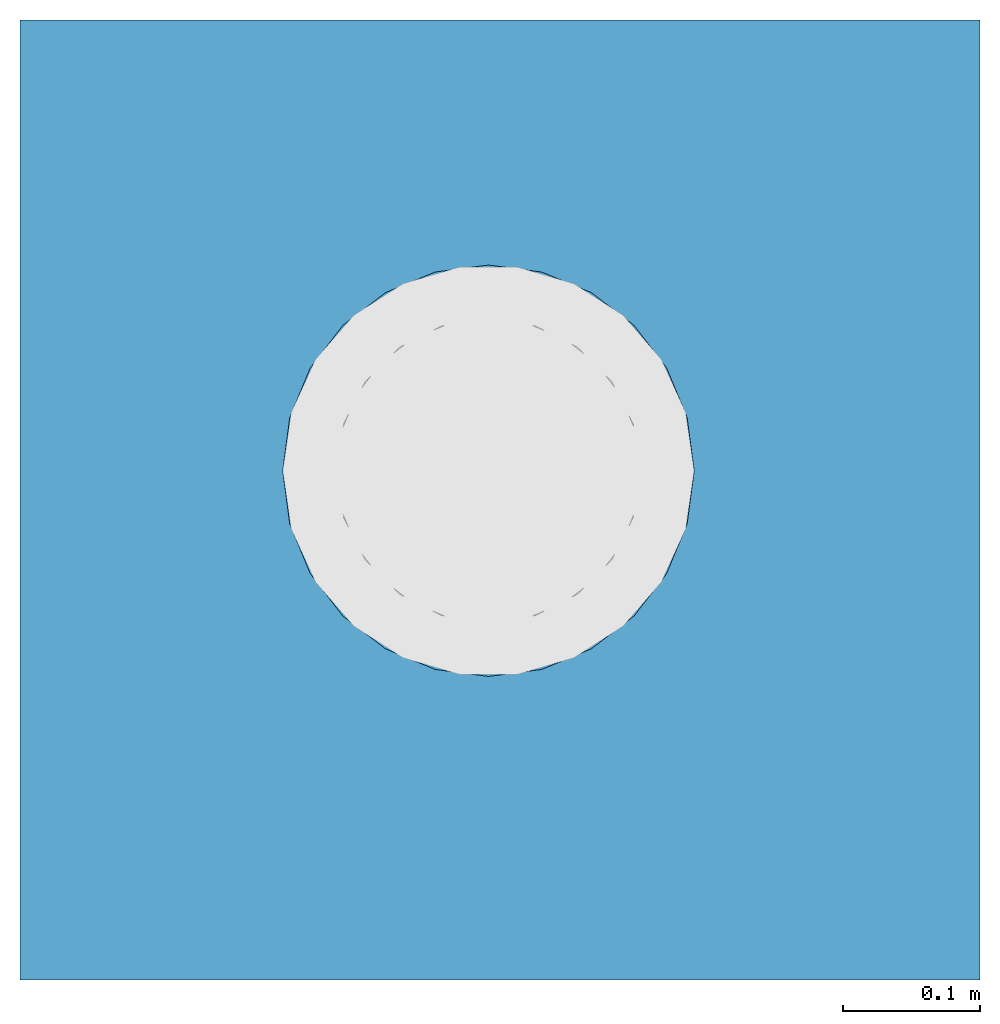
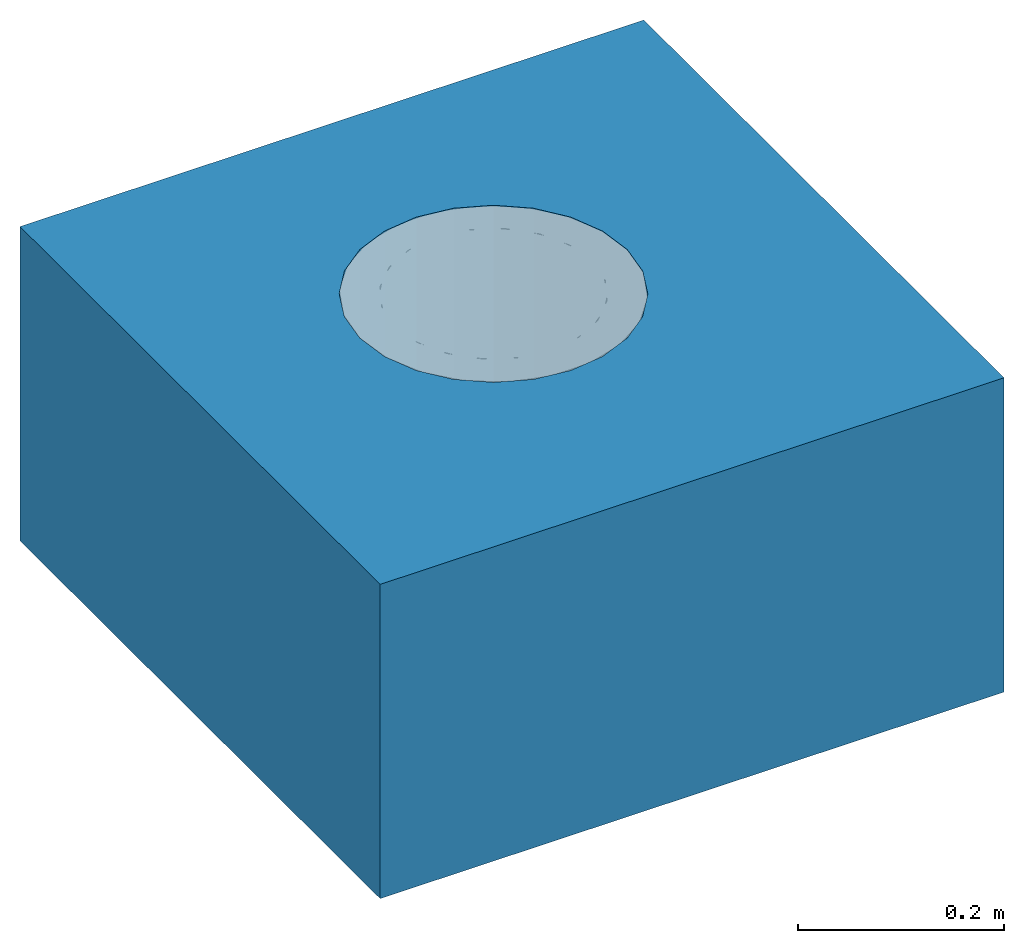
# One storey, incomplete: 1 slab, 1 opening.
"""IFC2X3 building model written with IfcOpenShell, lengths in millimetres."""

from ifc_helpers import new_model, entity, si_unit, converted_unit, derived_unit, direction, frame, frame_2d, origin, place, context, subcontext, project, spatial, rectangle, extrude, faceted_brep, material, layer, layer_set, layer_usage, element, save


model = new_model("IFC2X3")

# Units and contexts
model_context = context("Model", 3, precision=1e-05, world=origin(), true_north=direction((2.0, 6.12303176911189e-17, 1.0)))
context_of_model = context(None, 3, precision=1e-05, world=origin(), true_north=direction((2.0, 6.12303176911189e-17, 1.0)))
body_context = subcontext(model_context, "Body", "Model", "MODEL_VIEW")
ifc_project = project(units=[si_unit("LENGTHUNIT", "METRE", prefix="MILLI"), converted_unit("AREAUNIT", "SQUARE FOOT", entity("IfcRatioMeasure", 0.09290304), si_unit("AREAUNIT", "SQUARE_METRE"), dimensions=[2, 0, 0, 0, 0, 0, 0]), converted_unit("VOLUMEUNIT", "CUBIC FOOT", entity("IfcRatioMeasure", 0.028316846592), si_unit("VOLUMEUNIT", "CUBIC_METRE"), dimensions=[3, 0, 0, 0, 0, 0, 0]), converted_unit("PLANEANGLEUNIT", "DEGREE", entity("IfcRatioMeasure", 0.0174532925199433), si_unit("PLANEANGLEUNIT", "RADIAN"), dimensions=[0, 0, 0, 0, 0, 0, 0]), si_unit("MASSUNIT", "GRAM", prefix="KILO"), si_unit("TIMEUNIT", "SECOND"), si_unit("THERMODYNAMICTEMPERATUREUNIT", "KELVIN"), derived_unit("THERMALTRANSMITTANCEUNIT", [(si_unit("MASSUNIT", "GRAM", prefix="KILO"), 1), (si_unit("THERMODYNAMICTEMPERATUREUNIT", "KELVIN"), -1), (si_unit("TIMEUNIT", "SECOND"), -3)]), derived_unit("VOLUMETRICFLOWRATEUNIT", [(si_unit("LENGTHUNIT", "METRE"), 3), (si_unit("TIMEUNIT", "SECOND"), -1)]), si_unit("POWERUNIT", "WATT")], contexts=[model_context, context_of_model])

# Site, building, storey
site_placement = place(None, origin())
site = spatial("IfcSite", under=ifc_project, at=site_placement, Name="Default", CompositionType="ELEMENT")
building_placement = place(site_placement, origin())
building = spatial("IfcBuilding", under=site, at=building_placement, CompositionType="ELEMENT")
storey_placement = place(building_placement, origin())
storey = spatial("IfcBuildingStorey", under=building, at=storey_placement, Name="Level 1", CompositionType="ELEMENT", Elevation=0.0)

# Slab, opening
ifc_material_1 = material(Name="Plywood, Sheathing")
ifc_layer_1 = layer(ifc_material_1, 68.0)
ifc_material_2 = material(Name="Default Floor")
ifc_layer_2 = layer(ifc_material_2, 304.8)
ifc_layer_set = layer_set([ifc_layer_1, ifc_layer_2], Name="Floor:Generic - 12\"")
ifc_layer_usage = layer_usage(ifc_layer_set, "AXIS3", "POSITIVE", 0.0)
slab_placement = place(storey_placement, frame((-10498.0627721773, 2392.60708548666, -372.8)))
slab = element("IfcSlab", 1, at=slab_placement, inside=storey, material=ifc_layer_usage, Name="Floor:Generic - 12\"", ObjectType="Floor:Generic - 12\"", PredefinedType="FLOOR", context=body_context, shape_type="SweptSolid", body=[
    extrude(rectangle(XDim=700.0, YDim=699.999999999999, at=frame_2d((0.0, 0.0), x_axis=(0.0, -1.0))), frame((350.0, 350.0, 372.8), z_axis=(0.0, 0.0, -1.0), x_axis=(-1.0, 0.0, 0.0)), (0.0, 0.0, 1.0), 372.8),
])
opening_placement = place(slab_placement, frame((189.97754833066, 219.738874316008, 57.799999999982)))
element("IfcOpeningElement", 2, at=opening_placement, cuts=slab, ObjectType="Recess", context=body_context, shape_type="Brep", body=[
    faceted_brep([(226.595272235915, 21.6914616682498, 315.0), (1.5952722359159, 151.595272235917, 315.0), (190.418129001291, 6.70639829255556, 315.0), (301.595272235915, 151.595272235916, 315.0), (257.661289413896, 45.5292550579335, 315.0), (296.484146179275, 112.772415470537, 315.0), (281.499082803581, 76.5952722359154, 315.0), (6.70639829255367, 112.772415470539, 315.0), (151.595272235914, 1.59527223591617, 315.0), (76.595272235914, 21.6914616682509, 315.0), (112.772415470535, 6.7063982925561, 315.0), (21.6914616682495, 76.5952722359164, 315.0), (45.5292550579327, 45.5292550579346, 315.0), (296.484146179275, 190.418129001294, 315.0), (281.499082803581, 226.595272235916, 315.0), (257.661289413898, 257.661289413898, 315.0), (226.595272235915, 281.499082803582, 315.0), (190.418129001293, 296.484146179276, 315.0), (151.595272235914, 301.595272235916, 315.0), (21.6914616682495, 226.595272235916, 315.0), (6.70639829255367, 190.418129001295, 315.0), (45.5292550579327, 257.661289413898, 315.0), (76.5952722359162, 281.499082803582, 315.0), (112.772415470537, 296.484146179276, 315.0), (191.595272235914, 220.877304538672, 77.0), (172.300795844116, 228.869338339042, 77.0), (226.595272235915, 281.499082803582, 77.0), (257.661289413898, 257.661289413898, 77.0), (190.418129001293, 296.484146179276, 77.0), (151.595272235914, 231.595272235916, 77.0), (151.595272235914, 301.595272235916, 77.0), (281.499082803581, 226.595272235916, 77.0), (208.163814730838, 208.163814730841, 77.0), (296.484146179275, 190.418129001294, 77.0), (231.595272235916, 151.595272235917, 77.0), (228.869338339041, 172.300795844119, 77.0), (301.595272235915, 151.595272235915, 77.0), (220.87730453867, 191.595272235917, 77.0), (130.889748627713, 228.869338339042, 77.0), (112.772415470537, 296.484146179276, 77.0), (76.5952722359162, 281.499082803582, 77.0), (111.595272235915, 220.877304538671, 77.0), (95.0267297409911, 208.16381473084, 77.0), (45.5292550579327, 257.661289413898, 77.0), (21.6914616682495, 226.595272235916, 77.0), (82.3132399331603, 191.595272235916, 77.0), (74.3212061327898, 172.300795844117, 77.0), (6.70639829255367, 190.418129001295, 77.0), (71.5952722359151, 151.595272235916, 77.0), (1.5952722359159, 151.595272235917, 77.0), (296.484146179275, 112.772415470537, 77.0), (228.869338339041, 130.889748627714, 77.0), (220.87730453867, 111.595272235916, 77.0), (281.499082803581, 76.5952722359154, 77.0), (208.163814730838, 95.0267297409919, 77.0), (257.661289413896, 45.5292550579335, 77.0), (191.595272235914, 82.3132399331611, 77.0), (226.595272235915, 21.6914616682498, 77.0), (172.300795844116, 74.3212061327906, 77.0), (190.418129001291, 6.70639829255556, 77.0), (151.595272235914, 71.595272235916, 77.0), (151.595272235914, 1.59527223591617, 77.0), (45.5292550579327, 45.5292550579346, 77.0), (82.3132399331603, 111.595272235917, 77.0), (95.0267297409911, 95.0267297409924, 77.0), (6.70639829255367, 112.772415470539, 77.0), (21.6914616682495, 76.5952722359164, 77.0), (74.3212061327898, 130.889748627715, 77.0), (111.595272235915, 82.3132399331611, 77.0), (76.595272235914, 21.6914616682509, 77.0), (130.889748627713, 74.3212061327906, 77.0), (112.772415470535, 6.7063982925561, 77.0), (151.595272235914, 231.595272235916, 0.0), (172.300795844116, 228.869338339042, 0.0), (191.595272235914, 220.877304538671, 0.0), (111.595272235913, 220.877304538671, 0.0), (208.163814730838, 208.16381473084, 0.0), (220.877304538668, 191.595272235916, 0.0), (228.869338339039, 172.300795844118, 0.0), (74.3212061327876, 172.300795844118, 0.0), (95.0267297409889, 208.16381473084, 0.0), (130.889748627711, 228.869338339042, 0.0), (82.3132399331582, 191.595272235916, 0.0), (71.595272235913, 151.595272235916, 0.0), (231.595272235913, 151.595272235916, 0.0), (228.869338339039, 130.889748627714, 0.0), (220.877304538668, 111.595272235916, 0.0), (172.300795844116, 74.3212061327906, 0.0), (208.163814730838, 95.0267297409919, 0.0), (191.595272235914, 82.3132399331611, 0.0), (130.889748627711, 74.3212061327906, 0.0), (74.3212061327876, 130.889748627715, 0.0), (95.0267297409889, 95.0267297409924, 0.0), (82.3132399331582, 111.595272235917, 0.0), (111.595272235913, 82.3132399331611, 0.0), (151.595272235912, 71.595272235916, 0.0)], [[[0, 1, 2]], [[3, 0, 4]], [[5, 3, 4]], [[5, 4, 6]], [[7, 2, 1]], [[8, 9, 10]], [[8, 2, 9]], [[9, 11, 12]], [[11, 9, 7]], [[2, 7, 9]], [[13, 0, 3]], [[13, 14, 15]], [[13, 15, 16]], [[16, 17, 18]], [[16, 1, 0]], [[1, 16, 18]], [[1, 19, 20]], [[19, 1, 21]], [[18, 22, 21]], [[21, 1, 18]], [[23, 22, 18]], [[16, 0, 13]], [[24, 25, 26]], [[27, 24, 26]], [[28, 25, 29]], [[25, 28, 26]], [[28, 29, 30]], [[27, 31, 32]], [[33, 34, 35]], [[34, 33, 36]], [[35, 37, 31]], [[24, 27, 32]], [[32, 31, 37]], [[33, 35, 31]], [[30, 38, 39]], [[38, 30, 29]], [[40, 39, 41]], [[40, 42, 43]], [[44, 43, 45]], [[38, 41, 39]], [[46, 44, 45]], [[45, 43, 42]], [[47, 46, 48]], [[47, 44, 46]], [[47, 48, 49]], [[42, 40, 41]], [[36, 50, 51]], [[51, 50, 52]], [[53, 54, 52]], [[55, 56, 54]], [[53, 52, 50]], [[55, 57, 56]], [[56, 57, 58]], [[58, 59, 60]], [[59, 58, 57]], [[60, 59, 61]], [[55, 54, 53]], [[62, 63, 64]], [[65, 63, 66]], [[49, 67, 65]], [[49, 48, 67]], [[65, 67, 63]], [[64, 68, 69]], [[70, 61, 71]], [[61, 70, 60]], [[71, 69, 68]], [[62, 66, 63]], [[64, 69, 62]], [[70, 71, 68]], [[51, 34, 36]], [[7, 65, 66]], [[62, 11, 66]], [[9, 69, 71]], [[62, 69, 12]], [[10, 71, 61]], [[65, 1, 49]], [[65, 7, 1]], [[66, 11, 7]], [[62, 12, 11]], [[9, 12, 69]], [[71, 10, 9]], [[61, 8, 10]], [[2, 59, 57]], [[55, 0, 57]], [[6, 53, 50]], [[55, 53, 4]], [[5, 50, 36]], [[59, 2, 8]], [[57, 0, 2]], [[55, 4, 0]], [[53, 6, 4]], [[5, 6, 50]], [[36, 3, 5]], [[59, 8, 61]], [[36, 33, 13]], [[16, 26, 28]], [[26, 15, 27]], [[17, 28, 30]], [[36, 13, 3]], [[13, 33, 31]], [[13, 31, 14]], [[14, 31, 15]], [[31, 27, 15]], [[16, 15, 26]], [[28, 17, 16]], [[30, 18, 17]], [[23, 39, 40]], [[43, 22, 40]], [[19, 44, 47]], [[43, 44, 21]], [[20, 47, 49]], [[39, 23, 18]], [[40, 22, 23]], [[43, 21, 22]], [[44, 19, 21]], [[20, 19, 47]], [[49, 1, 20]], [[39, 18, 30]], [[72, 73, 74]], [[75, 72, 74]], [[76, 77, 78]], [[75, 74, 76]], [[75, 76, 78]], [[75, 79, 80]], [[75, 81, 72]], [[80, 79, 82]], [[79, 75, 83]], [[78, 83, 75]], [[78, 84, 83]], [[84, 85, 86]], [[84, 86, 87]], [[88, 89, 87]], [[88, 87, 86]], [[87, 90, 83]], [[91, 92, 93]], [[92, 91, 94]], [[91, 90, 94]], [[83, 90, 91]], [[87, 95, 90]], [[83, 84, 87]], [[63, 93, 92]], [[68, 94, 90]], [[92, 94, 64]], [[95, 70, 90]], [[48, 91, 67]], [[91, 48, 83]], [[91, 93, 67]], [[93, 63, 67]], [[92, 64, 63]], [[68, 64, 94]], [[90, 70, 68]], [[95, 60, 70]], [[58, 87, 89]], [[88, 56, 89]], [[52, 86, 85]], [[88, 86, 54]], [[51, 85, 84]], [[87, 58, 60]], [[89, 56, 58]], [[88, 54, 56]], [[86, 52, 54]], [[51, 52, 85]], [[84, 34, 51]], [[87, 60, 95]], [[78, 35, 84]], [[77, 37, 78]], [[73, 72, 25]], [[76, 32, 77]], [[78, 37, 35]], [[35, 34, 84]], [[24, 74, 25]], [[24, 32, 76]], [[74, 73, 25]], [[32, 37, 77]], [[76, 74, 24]], [[72, 29, 25]], [[38, 81, 75]], [[80, 41, 75]], [[45, 82, 79]], [[80, 82, 42]], [[46, 79, 83]], [[81, 38, 29]], [[75, 41, 38]], [[80, 42, 41]], [[82, 45, 42]], [[46, 45, 79]], [[83, 48, 46]], [[81, 29, 72]]]),
])

save(model, "model.ifc")
